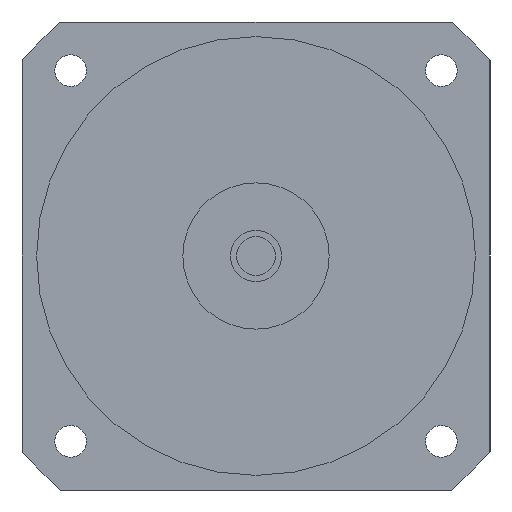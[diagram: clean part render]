
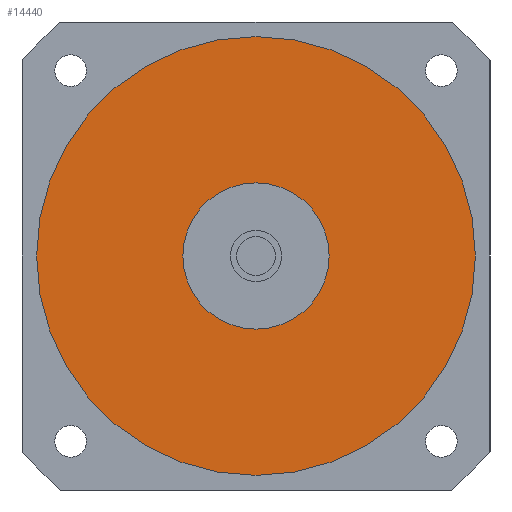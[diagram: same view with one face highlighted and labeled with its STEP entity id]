
A CAD part, left-side view. The second image highlights one B-rep face of the part: STEP entity #14440.
In plain terms, the highlighted planar face has unit normal (-1, 0, 0) as drawn and (0, 0, -1) by its records, which use the part's own axes.
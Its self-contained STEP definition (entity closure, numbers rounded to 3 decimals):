
#9350=CARTESIAN_POINT('',(30.,0.,-43.9));
#9360=VERTEX_POINT('',#9350);
#9390=CARTESIAN_POINT('',(0.,0.,
-43.9));
#9400=DIRECTION('',(0.,0.,1.));
#9410=DIRECTION('',(0.,1.,0.));
#9420=AXIS2_PLACEMENT_3D('',#9390,#9400,#9410);
#9430=CIRCLE('',#9420,30.);
#9440=CARTESIAN_POINT('',(0.,30.,-43.9));
#9450=VERTEX_POINT('',#9440);
#9460=EDGE_CURVE('',#9360,#9450,#9430,.T.);
#9480=CARTESIAN_POINT('',(-30.,0.,-43.9));
#9490=VERTEX_POINT('',#9480);
#9500=EDGE_CURVE('',#9450,#9490,#9430,.T.);
#13990=CARTESIAN_POINT('',(90.,0.,-43.9));
#14000=VERTEX_POINT('',#13990);
#14090=CARTESIAN_POINT('',(-90.,0.,-43.9));
#14100=VERTEX_POINT('',#14090);
#14130=CARTESIAN_POINT('',(0.,0.,
-43.9));
#14140=DIRECTION('',(0.,0.,1.));
#14150=DIRECTION('',(0.,1.,0.));
#14160=AXIS2_PLACEMENT_3D('',#14130,#14140,#14150);
#14170=CIRCLE('',#14160,90.);
#14180=CARTESIAN_POINT('',(0.,90.,-43.9));
#14190=VERTEX_POINT('',#14180);
#14200=EDGE_CURVE('',#14190,#14100,#14170,.T.);
#14220=EDGE_CURVE('',#14000,#14190,#14170,.T.);
#14270=CARTESIAN_POINT('',(0.,0.,
-43.9));
#14280=DIRECTION('',(0.,0.,1.));
#14290=DIRECTION('',(-1.,0.,0.));
#14300=AXIS2_PLACEMENT_3D('',#14270,#14280,#14290);
#14310=PLANE('',#14300);
#14320=ORIENTED_EDGE('',*,*,#14200,.F.);
#14330=EDGE_CURVE('',#14100,#14000,#14170,.T.);
#14340=ORIENTED_EDGE('',*,*,#14330,.F.);
#14350=ORIENTED_EDGE('',*,*,#14220,.F.);
#14360=EDGE_LOOP('',(#14350,#14340,#14320));
#14370=FACE_OUTER_BOUND('',#14360,.T.);
#14380=EDGE_CURVE('',#9490,#9360,#9430,.T.);
#14390=ORIENTED_EDGE('',*,*,#14380,.T.);
#14400=ORIENTED_EDGE('',*,*,#9500,.T.);
#14410=ORIENTED_EDGE('',*,*,#9460,.T.);
#14420=EDGE_LOOP('',(#14410,#14400,#14390));
#14430=FACE_BOUND('',#14420,.T.);
#14440=ADVANCED_FACE('',(#14370,#14430),#14310,.F.);
